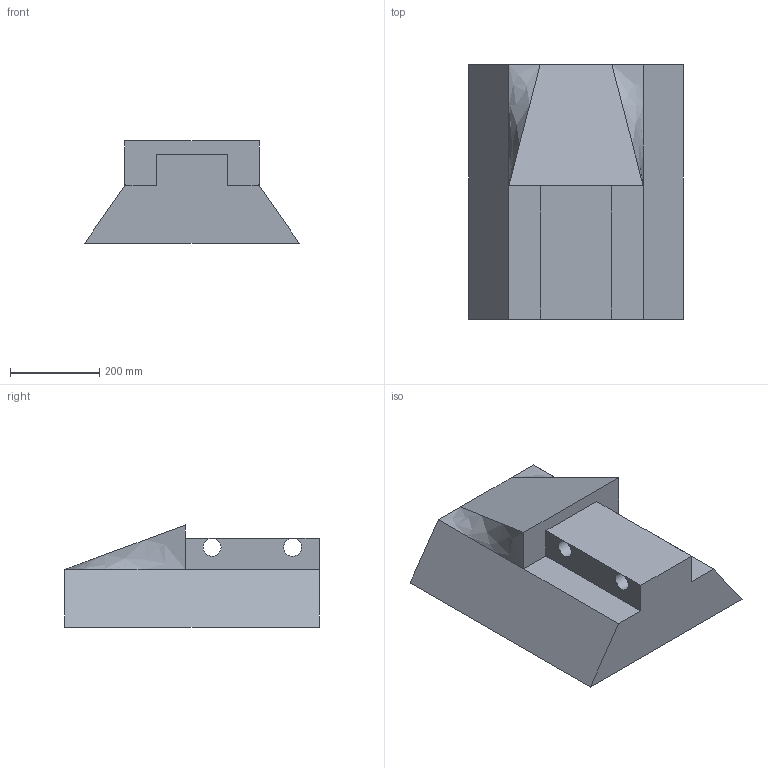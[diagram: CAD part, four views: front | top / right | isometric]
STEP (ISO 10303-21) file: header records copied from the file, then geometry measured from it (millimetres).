
FILE_DESCRIPTION(('STEP AP242'), '1');
FILE_NAME('扻豵鵨', '', ('UNSPECIFIED'), ('UNSPECIFIED'), 'C3D Converter', 'C3D Toolkit', '');
FILE_SCHEMA(('AP242_MANAGED_MODEL_BASED_3D_ENGINEERING_MIM_LF { 1 0 10303 442 1 1 4 }'));
Length unit declared in the file: millimetre
Bounding box: 480 x 570 x 228.53 mm (x, y, z)
Volume: 35265833.3 mm3; surface area: 854499.1 mm2
Topology: 1 solids, 1 shells, 16 faces, 48 edges, 30 vertices
Faces by surface type: plane 12, cylinder 2, bspline 2
Full cylindrical faces by diameter (mm): 40 x2
Entity records: 610 total; most frequent: CARTESIAN_POINT 139, ORIENTED_EDGE 92, DIRECTION 84, EDGE_CURVE 46, LINE 38, VECTOR 38, VERTEX_POINT 30, AXIS2_PLACEMENT_3D 23
